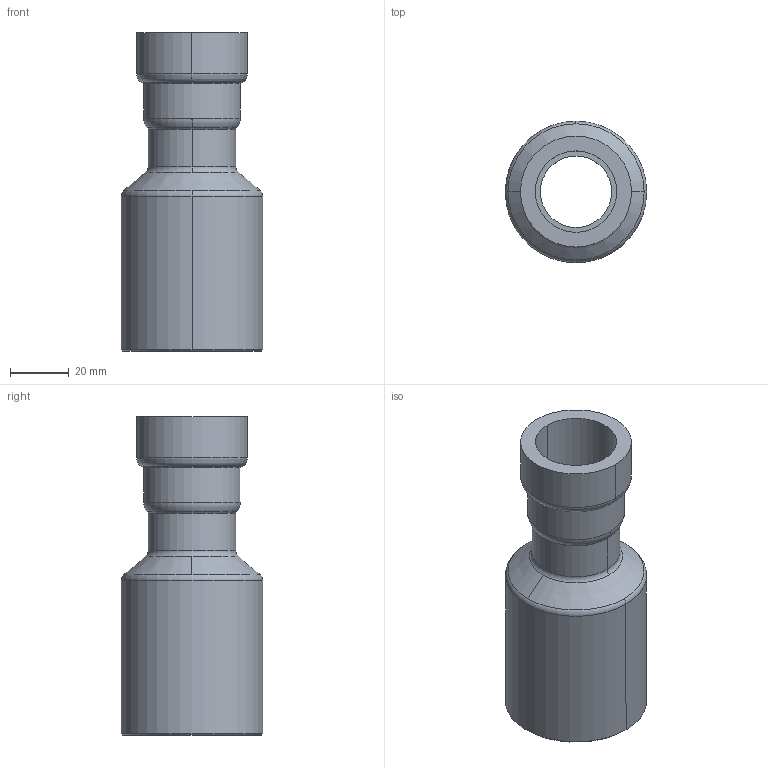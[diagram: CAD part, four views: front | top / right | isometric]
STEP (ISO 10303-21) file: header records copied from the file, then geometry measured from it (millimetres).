
FILE_DESCRIPTION(('Creo Elements/Direct Modeling STEP Export'),'2;1');
FILE_NAME('C9407_3-4_1-1-2.stp','2020-06-23T13:42:49',(''),(''),'PTC Creo Elements/Direct Modeling STEP processor for AP214 (Solid Model)','PTC Creo Elements/Direct Modeling 19.0C 15-Aug-2015 (C) Parametric Technology GmbH','');
FILE_SCHEMA(('AUTOMOTIVE_DESIGN { 1 0 10303 214 1 1 1 1 }'));
Length unit declared in the file: millimetre
Products named in the file (2): 9407_3-4_1-1-2
Assembly tree (1 placements, depth 2):
  9407_3-4_1-1-2
    9407_3-4_1-1-2
Bounding box: 48.3 x 48.3 x 108.87 mm (x, y, z)
Volume: 47048 mm3; surface area: 27888.5 mm2
Topology: 1 solids, 1 shells, 39 faces, 84 edges, 48 vertices
Faces by surface type: cylinder 14, torus 12, cone 10, plane 3
Entity records: 980 total; most frequent: DIRECTION 172, ORIENTED_EDGE 168, CARTESIAN_POINT 146, EDGE_CURVE 84, AXIS2_PLACEMENT_3D 74, VERTEX_POINT 48, EDGE_LOOP 42, FACE_OUTER_BOUND 39
